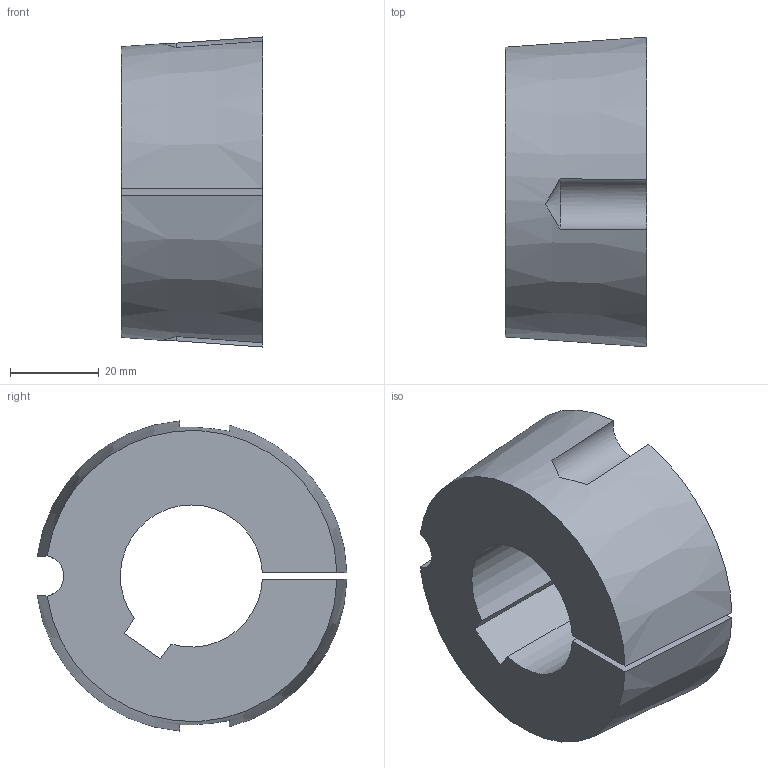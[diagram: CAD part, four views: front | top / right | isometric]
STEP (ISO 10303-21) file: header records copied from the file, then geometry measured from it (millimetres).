
FILE_DESCRIPTION( ( 'STEP AP203' ), '1' );
FILE_NAME( 'D:/export/antriebselemente/spannbuchsen_und_spannsaetze/taper-spannbuchsen_1008_bis_5050/taper-spannbuchsen_62250532Isometric_123.stp', '2018-12-11T11:11:13', ( '' ), ( '' ), ' ', 'PARTsolutions', ' ' );
FILE_SCHEMA( ( 'CONFIG_CONTROL_DESIGN' ) );
Length unit declared in the file: millimetre
Products named in the file (1): _taper-spannbuchsen_62250532
Bounding box: 31.8 x 69.72 x 69.81 mm (x, y, z)
Volume: 83614.1 mm3; surface area: 17109.1 mm2
Topology: 1 solids, 1 shells, 16 faces, 42 edges, 28 vertices
Faces by surface type: plane 7, cylinder 5, cone 4
Entity records: 618 total; most frequent: CARTESIAN_POINT 179, ORIENTED_EDGE 84, DIRECTION 82, EDGE_CURVE 42, AXIS2_PLACEMENT_3D 33, VERTEX_POINT 28, ADVANCED_FACE 16, FACE_OUTER_BOUND 16
